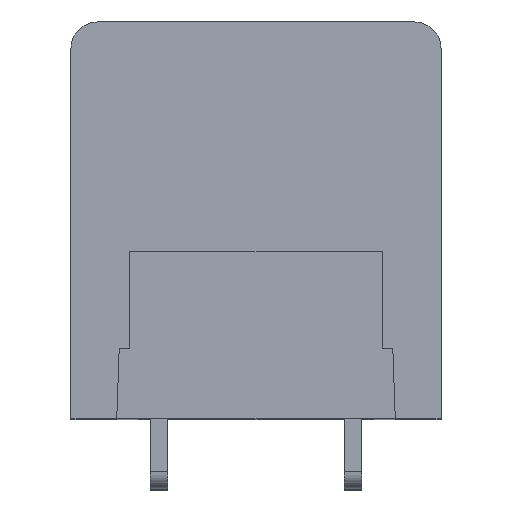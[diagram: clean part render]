
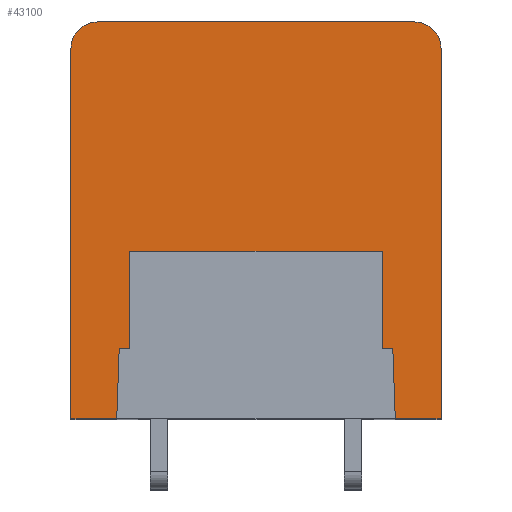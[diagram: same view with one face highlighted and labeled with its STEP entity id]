
A CAD part, top view. The second image highlights one B-rep face of the part: STEP entity #43100.
In plain terms, the highlighted planar face has unit normal (0, 0, 1).
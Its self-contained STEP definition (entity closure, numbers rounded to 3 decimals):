
#5474=CARTESIAN_POINT('',(1.5,21.,-0.6));
#5475=DIRECTION('',(0.,0.,1.));
#5476=DIRECTION('',(0.,1.,0.));
#5477=AXIS2_PLACEMENT_3D('',#5474,#5475,#5476);
#5479=DIRECTION('',(-1.,0.,0.));
#5480=VECTOR('',#5479,18.);
#5481=CARTESIAN_POINT('',(19.5,22.5,-0.6));
#5482=LINE('',#5481,#5480);
#5483=CARTESIAN_POINT('',(19.5,21.,-0.6));
#5484=DIRECTION('',(0.,0.,1.));
#5485=DIRECTION('',(1.,0.,0.));
#5486=AXIS2_PLACEMENT_3D('',#5483,#5484,#5485);
#5488=DIRECTION('',(0.,1.,0.));
#5489=VECTOR('',#5488,21.);
#5490=CARTESIAN_POINT('',(21.,0.,-0.6));
#5491=LINE('',#5490,#5489);
#5492=DIRECTION('',(1.,0.,0.));
#5493=VECTOR('',#5492,2.6);
#5494=CARTESIAN_POINT('',(18.4,0.,-0.6));
#5495=LINE('',#5494,#5493);
#5496=DIRECTION('',(0.035,-0.999,0.));
#5497=VECTOR('',#5496,4.002);
#5498=CARTESIAN_POINT('',(18.26,4.,-0.6));
#5499=LINE('',#5498,#5497);
#5500=DIRECTION('',(0.035,0.999,0.));
#5501=VECTOR('',#5500,4.002);
#5502=CARTESIAN_POINT('',(2.6,0.,-0.6));
#5503=LINE('',#5502,#5501);
#5504=DIRECTION('',(1.,0.,0.));
#5505=VECTOR('',#5504,2.6);
#5506=CARTESIAN_POINT('',(0.,0.,-0.6));
#5507=LINE('',#5506,#5505);
#5512=DIRECTION('',(0.,1.,0.));
#5513=VECTOR('',#5512,21.);
#5514=CARTESIAN_POINT('',(0.,0.,-0.6));
#5515=LINE('',#5514,#5513);
#5680=DIRECTION('',(-1.,0.,0.));
#5681=VECTOR('',#5680,14.3);
#5682=CARTESIAN_POINT('',(17.65,9.5,-0.6));
#5683=LINE('',#5682,#5681);
#5688=DIRECTION('',(0.,1.,0.));
#5689=VECTOR('',#5688,5.5);
#5690=CARTESIAN_POINT('',(17.65,4.,-0.6));
#5691=LINE('',#5690,#5689);
#5696=DIRECTION('',(-1.,0.,0.));
#5697=VECTOR('',#5696,0.61);
#5698=CARTESIAN_POINT('',(18.26,4.,-0.6));
#5699=LINE('',#5698,#5697);
#5712=DIRECTION('',(0.,-1.,0.));
#5713=VECTOR('',#5712,5.5);
#5714=CARTESIAN_POINT('',(3.35,9.5,-0.6));
#5715=LINE('',#5714,#5713);
#5728=DIRECTION('',(-1.,0.,0.));
#5729=VECTOR('',#5728,0.61);
#5730=CARTESIAN_POINT('',(3.35,4.,-0.6));
#5731=LINE('',#5730,#5729);
#31579=CARTESIAN_POINT('',(0.,0.,-0.6));
#31580=VERTEX_POINT('',#31579);
#31581=CARTESIAN_POINT('',(2.6,0.,-0.6));
#31582=VERTEX_POINT('',#31581);
#31587=CARTESIAN_POINT('',(18.4,0.,-0.6));
#31588=VERTEX_POINT('',#31587);
#31589=CARTESIAN_POINT('',(21.,0.,-0.6));
#31590=VERTEX_POINT('',#31589);
#31751=CARTESIAN_POINT('',(1.5,22.5,-0.6));
#31752=VERTEX_POINT('',#31751);
#31753=CARTESIAN_POINT('',(0.,21.,-0.6));
#31754=VERTEX_POINT('',#31753);
#31755=CARTESIAN_POINT('',(19.5,22.5,-0.6));
#31756=VERTEX_POINT('',#31755);
#31757=CARTESIAN_POINT('',(21.,21.,-0.6));
#31758=VERTEX_POINT('',#31757);
#31759=CARTESIAN_POINT('',(18.26,4.,-0.6));
#31760=VERTEX_POINT('',#31759);
#31761=CARTESIAN_POINT('',(17.65,4.,-0.6));
#31762=VERTEX_POINT('',#31761);
#31763=CARTESIAN_POINT('',(17.65,9.5,-0.6));
#31764=VERTEX_POINT('',#31763);
#31765=CARTESIAN_POINT('',(3.35,9.5,-0.6));
#31766=VERTEX_POINT('',#31765);
#31767=CARTESIAN_POINT('',(3.35,4.,-0.6));
#31768=VERTEX_POINT('',#31767);
#31769=CARTESIAN_POINT('',(2.74,4.,-0.6));
#31770=VERTEX_POINT('',#31769);
#43068=CARTESIAN_POINT('',(10.5,0.,-0.6));
#43069=DIRECTION('',(0.,0.,1.));
#43070=DIRECTION('',(1.,0.,0.));
#43071=AXIS2_PLACEMENT_3D('',#43068,#43069,#43070);
#43072=PLANE('',#43071);
#43074=ORIENTED_EDGE('',*,*,#43073,.T.);
#43076=ORIENTED_EDGE('',*,*,#43075,.F.);
#43078=ORIENTED_EDGE('',*,*,#43077,.F.);
#43080=ORIENTED_EDGE('',*,*,#43079,.F.);
#43081=ORIENTED_EDGE('',*,*,#43056,.F.);
#43082=ORIENTED_EDGE('',*,*,#37378,.F.);
#43084=ORIENTED_EDGE('',*,*,#43083,.F.);
#43086=ORIENTED_EDGE('',*,*,#43085,.T.);
#43088=ORIENTED_EDGE('',*,*,#43087,.T.);
#43090=ORIENTED_EDGE('',*,*,#43089,.T.);
#43092=ORIENTED_EDGE('',*,*,#43091,.T.);
#43094=ORIENTED_EDGE('',*,*,#43093,.T.);
#43096=ORIENTED_EDGE('',*,*,#43095,.F.);
#43097=ORIENTED_EDGE('',*,*,#37370,.F.);
#43098=EDGE_LOOP('',(#43074,#43076,#43078,#43080,#43081,#43082,#43084,#43086,
#43088,#43090,#43092,#43094,#43096,#43097));
#43099=FACE_OUTER_BOUND('',#43098,.F.);
#43100=ADVANCED_FACE('',(#43099),#43072,.T.);
#5478=CIRCLE('',#5477,1.5);
#5487=CIRCLE('',#5486,1.5);
#37370=EDGE_CURVE('',#31580,#31582,#5507,.T.);
#37378=EDGE_CURVE('',#31588,#31590,#5495,.T.);
#43056=EDGE_CURVE('',#31590,#31758,#5491,.T.);
#43073=EDGE_CURVE('',#31580,#31754,#5515,.T.);
#43075=EDGE_CURVE('',#31752,#31754,#5478,.T.);
#43077=EDGE_CURVE('',#31756,#31752,#5482,.T.);
#43079=EDGE_CURVE('',#31758,#31756,#5487,.T.);
#43083=EDGE_CURVE('',#31760,#31588,#5499,.T.);
#43085=EDGE_CURVE('',#31760,#31762,#5699,.T.);
#43087=EDGE_CURVE('',#31762,#31764,#5691,.T.);
#43089=EDGE_CURVE('',#31764,#31766,#5683,.T.);
#43091=EDGE_CURVE('',#31766,#31768,#5715,.T.);
#43093=EDGE_CURVE('',#31768,#31770,#5731,.T.);
#43095=EDGE_CURVE('',#31582,#31770,#5503,.T.);
